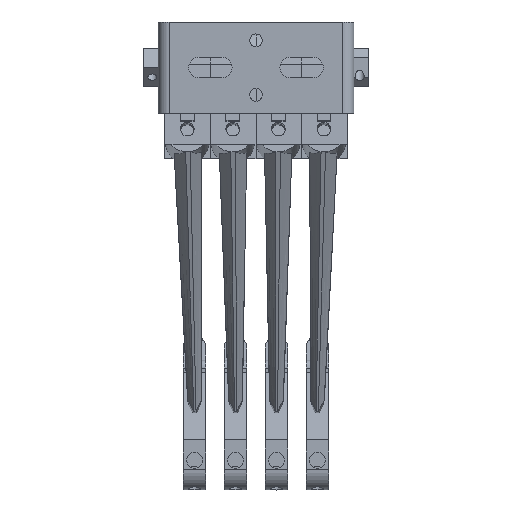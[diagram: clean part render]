
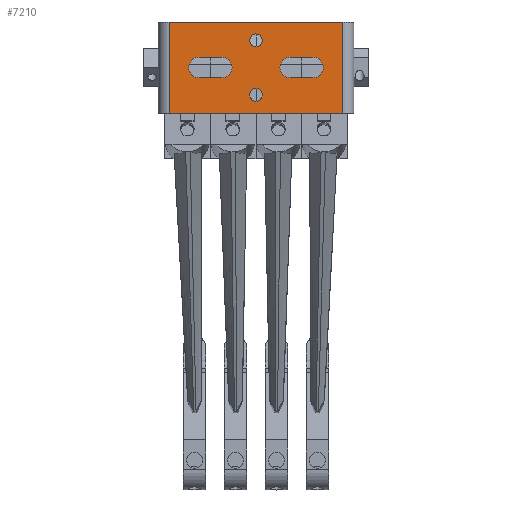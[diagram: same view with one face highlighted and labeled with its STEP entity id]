
A CAD part, front view. The second image highlights one B-rep face of the part: STEP entity #7210.
In plain terms, the highlighted planar face has unit normal (0, -1, 0).
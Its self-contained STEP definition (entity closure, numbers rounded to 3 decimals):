
#678 = FACE_BOUND ( 'NONE', #3669, .T. ) ;
#719 = FACE_BOUND ( 'NONE', #3660, .T. ) ;
#730 = FACE_BOUND ( 'NONE', #3900, .T. ) ;
#731 = FACE_OUTER_BOUND ( 'NONE', #3659, .T. ) ;
#733 = FACE_BOUND ( 'NONE', #3693, .T. ) ;
#2669 = DIRECTION ( 'NONE',  ( 0., -1., 0. ) ) ;
#2670 = PLANE ( 'NONE',  #9918 ) ;
#2672 = CARTESIAN_POINT ( 'NONE',  ( 0., -3., -40. ) ) ;
#2674 = DIRECTION ( 'NONE',  ( 0., 0., -1. ) ) ;
#2949 = CARTESIAN_POINT ( 'NONE',  ( 65., -3., -24.5 ) ) ;
#2968 = CARTESIAN_POINT ( 'NONE',  ( 40., -3., -10.75 ) ) ;
#2997 = CARTESIAN_POINT ( 'NONE',  ( 25., -3., -24.5 ) ) ;
#3009 = CARTESIAN_POINT ( 'NONE',  ( 25., -3., -15.5 ) ) ;
#3016 = CARTESIAN_POINT ( 'NONE',  ( 2., -3., -40. ) ) ;
#3035 = CARTESIAN_POINT ( 'NONE',  ( 65., -3., -15.5 ) ) ;
#3049 = CARTESIAN_POINT ( 'NONE',  ( 40., -3., -29.25 ) ) ;
#3051 = CARTESIAN_POINT ( 'NONE',  ( 15., -3., -15.5 ) ) ;
#3088 = CARTESIAN_POINT ( 'NONE',  ( 15., -3., -24.5 ) ) ;
#3089 = CARTESIAN_POINT ( 'NONE',  ( 40., -3., -34.75 ) ) ;
#3102 = CARTESIAN_POINT ( 'NONE',  ( 78., -3., -40. ) ) ;
#3122 = CARTESIAN_POINT ( 'NONE',  ( 55., -3., -24.5 ) ) ;
#3123 = CARTESIAN_POINT ( 'NONE',  ( 55., -3., -15.5 ) ) ;
#3127 = CARTESIAN_POINT ( 'NONE',  ( 78., -3., 0. ) ) ;
#3137 = CARTESIAN_POINT ( 'NONE',  ( 40., -3., -5.25 ) ) ;
#3240 = CARTESIAN_POINT ( 'NONE',  ( 2., -3., 0. ) ) ;
#3659 = EDGE_LOOP ( 'NONE', ( #10467, #10477, #10106, #10294 ) ) ;
#3660 = EDGE_LOOP ( 'NONE', ( #7482, #7469, #7477, #7476 ) ) ;
#3669 = EDGE_LOOP ( 'NONE', ( #7480, #7484 ) ) ;
#3693 = EDGE_LOOP ( 'NONE', ( #7479, #7470 ) ) ;
#3838 = CARTESIAN_POINT ( 'NONE',  ( 40., -3., -8. ) ) ;
#3839 = DIRECTION ( 'NONE',  ( 0., 1., 0. ) ) ;
#3855 = DIRECTION ( 'NONE',  ( 0., 0., -1. ) ) ;
#3900 = EDGE_LOOP ( 'NONE', ( #10278, #10145, #10166, #10159 ) ) ;
#4139 = DIRECTION ( 'NONE',  ( 1., 0., 0. ) ) ;
#4142 = DIRECTION ( 'NONE',  ( 0., 1., 0. ) ) ;
#4143 = DIRECTION ( 'NONE',  ( 0., 0., -1. ) ) ;
#4144 = CARTESIAN_POINT ( 'NONE',  ( 55., -3., -20. ) ) ;
#4181 = DIRECTION ( 'NONE',  ( 1., 0., 0. ) ) ;
#4182 = CARTESIAN_POINT ( 'NONE',  ( 0., -3., -40. ) ) ;
#4187 = CARTESIAN_POINT ( 'NONE',  ( 25., -3., -15.5 ) ) ;
#4765 = CARTESIAN_POINT ( 'NONE',  ( 55., -3., -15.5 ) ) ;
#4770 = DIRECTION ( 'NONE',  ( 1., 0., 0. ) ) ;
#4777 = CARTESIAN_POINT ( 'NONE',  ( 15., -3., -20. ) ) ;
#4778 = DIRECTION ( 'NONE',  ( 0., 1., 0. ) ) ;
#4779 = DIRECTION ( 'NONE',  ( 0., 0., -1. ) ) ;
#4782 = CARTESIAN_POINT ( 'NONE',  ( 40., -3., -32. ) ) ;
#4783 = DIRECTION ( 'NONE',  ( 0., 1., 0. ) ) ;
#4784 = DIRECTION ( 'NONE',  ( 0., 0., -1. ) ) ;
#4785 = CARTESIAN_POINT ( 'NONE',  ( 40., -3., -32. ) ) ;
#4786 = DIRECTION ( 'NONE',  ( 0., 1., 0. ) ) ;
#4787 = DIRECTION ( 'NONE',  ( 0., 0., -1. ) ) ;
#4812 = CARTESIAN_POINT ( 'NONE',  ( 40., -3., -8. ) ) ;
#4813 = DIRECTION ( 'NONE',  ( 0., 1., 0. ) ) ;
#4814 = DIRECTION ( 'NONE',  ( 0., 0., -1. ) ) ;
#4818 = CARTESIAN_POINT ( 'NONE',  ( 2., -3., -40. ) ) ;
#4826 = DIRECTION ( 'NONE',  ( 0., 0., 1. ) ) ;
#4832 = DIRECTION ( 'NONE',  ( -1., 0., 0. ) ) ;
#4833 = CARTESIAN_POINT ( 'NONE',  ( 65., -3., -24.5 ) ) ;
#4881 = CARTESIAN_POINT ( 'NONE',  ( 65., -3., -20. ) ) ;
#4882 = DIRECTION ( 'NONE',  ( 0., 1., 0. ) ) ;
#4883 = DIRECTION ( 'NONE',  ( 0., 0., -1. ) ) ;
#4931 = CARTESIAN_POINT ( 'NONE',  ( 78., -3., -40. ) ) ;
#4932 = CARTESIAN_POINT ( 'NONE',  ( 25., -3., -20. ) ) ;
#4933 = DIRECTION ( 'NONE',  ( 0., 1., 0. ) ) ;
#4934 = DIRECTION ( 'NONE',  ( 0., 0., -1. ) ) ;
#4936 = DIRECTION ( 'NONE',  ( 0., 0., 1. ) ) ;
#4948 = CARTESIAN_POINT ( 'NONE',  ( 15., -3., -24.5 ) ) ;
#4953 = CARTESIAN_POINT ( 'NONE',  ( 0., -3., 0. ) ) ;
#4954 = DIRECTION ( 'NONE',  ( 1., 0., 0. ) ) ;
#4958 = DIRECTION ( 'NONE',  ( -1., 0., 0. ) ) ;
#5254 = EDGE_CURVE ( 'NONE', #7950, #7862, #8632, .T. ) ;
#5258 = EDGE_CURVE ( 'NONE', #7915, #7878, #8640, .T. ) ;
#5259 = EDGE_CURVE ( 'NONE', #7876, #7916, #8642, .T. ) ;
#5261 = EDGE_CURVE ( 'NONE', #7916, #7876, #8646, .T. ) ;
#5271 = EDGE_CURVE ( 'NONE', #7795, #7964, #8661, .T. ) ;
#5278 = EDGE_CURVE ( 'NONE', #7843, #8071, #8672, .T. ) ;
#5281 = EDGE_CURVE ( 'NONE', #7776, #7949, #8679, .T. ) ;
#5287 = EDGE_CURVE ( 'NONE', #7862, #7776, #8680, .T. ) ;
#5308 = EDGE_CURVE ( 'NONE', #7836, #7824, #8718, .T. ) ;
#5310 = EDGE_CURVE ( 'NONE', #7929, #7954, #8716, .T. ) ;
#5319 = EDGE_CURVE ( 'NONE', #8071, #7954, #8738, .T. ) ;
#5321 = EDGE_CURVE ( 'NONE', #7824, #7915, #8736, .T. ) ;
#5340 = EDGE_CURVE ( 'NONE', #7949, #7950, #8777, .T. ) ;
#5345 = EDGE_CURVE ( 'NONE', #7878, #7836, #8785, .T. ) ;
#5360 = EDGE_CURVE ( 'NONE', #7843, #7929, #8812, .T. ) ;
#5472 = EDGE_CURVE ( 'NONE', #7964, #7795, #8963, .T. ) ;
#7210 = ADVANCED_FACE ( 'NONE', ( #678, #733, #719, #730, #731 ), #2670, .T. ) ;
#7469 = ORIENTED_EDGE ( 'NONE', *, *, #5340, .T. ) ;
#7470 = ORIENTED_EDGE ( 'NONE', *, *, #5261, .T. ) ;
#7476 = ORIENTED_EDGE ( 'NONE', *, *, #5287, .T. ) ;
#7477 = ORIENTED_EDGE ( 'NONE', *, *, #5254, .T. ) ;
#7479 = ORIENTED_EDGE ( 'NONE', *, *, #5259, .T. ) ;
#7480 = ORIENTED_EDGE ( 'NONE', *, *, #5472, .T. ) ;
#7482 = ORIENTED_EDGE ( 'NONE', *, *, #5281, .T. ) ;
#7484 = ORIENTED_EDGE ( 'NONE', *, *, #5271, .T. ) ;
#7776 = VERTEX_POINT ( 'NONE', #2949 ) ;
#7795 = VERTEX_POINT ( 'NONE', #2968 ) ;
#7824 = VERTEX_POINT ( 'NONE', #2997 ) ;
#7836 = VERTEX_POINT ( 'NONE', #3009 ) ;
#7843 = VERTEX_POINT ( 'NONE', #3016 ) ;
#7862 = VERTEX_POINT ( 'NONE', #3035 ) ;
#7876 = VERTEX_POINT ( 'NONE', #3049 ) ;
#7878 = VERTEX_POINT ( 'NONE', #3051 ) ;
#7915 = VERTEX_POINT ( 'NONE', #3088 ) ;
#7916 = VERTEX_POINT ( 'NONE', #3089 ) ;
#7929 = VERTEX_POINT ( 'NONE', #3102 ) ;
#7949 = VERTEX_POINT ( 'NONE', #3122 ) ;
#7950 = VERTEX_POINT ( 'NONE', #3123 ) ;
#7954 = VERTEX_POINT ( 'NONE', #3127 ) ;
#7964 = VERTEX_POINT ( 'NONE', #3137 ) ;
#8071 = VERTEX_POINT ( 'NONE', #3240 ) ;
#8632 = LINE ( 'NONE', #4765, #8637 ) ;
#8637 = VECTOR ( 'NONE', #4770, 1000. ) ;
#8640 = CIRCLE ( 'NONE', #9558, 4.5 ) ;
#8642 = CIRCLE ( 'NONE', #9560, 2.75 ) ;
#8646 = CIRCLE ( 'NONE', #9561, 2.75 ) ;
#8661 = CIRCLE ( 'NONE', #9566, 2.75 ) ;
#8672 = LINE ( 'NONE', #4818, #8677 ) ;
#8674 = VECTOR ( 'NONE', #4832, 1000. ) ;
#8677 = VECTOR ( 'NONE', #4826, 1000. ) ;
#8679 = LINE ( 'NONE', #4833, #8674 ) ;
#8680 = CIRCLE ( 'NONE', #9568, 4.5 ) ;
#8716 = LINE ( 'NONE', #4931, #8723 ) ;
#8718 = CIRCLE ( 'NONE', #9576, 4.5 ) ;
#8723 = VECTOR ( 'NONE', #4936, 1000. ) ;
#8736 = LINE ( 'NONE', #4948, #8745 ) ;
#8738 = LINE ( 'NONE', #4953, #8741 ) ;
#8741 = VECTOR ( 'NONE', #4954, 1000. ) ;
#8745 = VECTOR ( 'NONE', #4958, 1000. ) ;
#8777 = CIRCLE ( 'NONE', #9578, 4.5 ) ;
#8785 = LINE ( 'NONE', #4187, #8788 ) ;
#8788 = VECTOR ( 'NONE', #4139, 1000. ) ;
#8812 = LINE ( 'NONE', #4182, #8815 ) ;
#8815 = VECTOR ( 'NONE', #4181, 1000. ) ;
#8963 = CIRCLE ( 'NONE', #9607, 2.75 ) ;
#9558 = AXIS2_PLACEMENT_3D ( 'NONE', #4777, #4778, #4779 ) ;
#9560 = AXIS2_PLACEMENT_3D ( 'NONE', #4782, #4783, #4784 ) ;
#9561 = AXIS2_PLACEMENT_3D ( 'NONE', #4785, #4786, #4787 ) ;
#9566 = AXIS2_PLACEMENT_3D ( 'NONE', #4812, #4813, #4814 ) ;
#9568 = AXIS2_PLACEMENT_3D ( 'NONE', #4881, #4882, #4883 ) ;
#9576 = AXIS2_PLACEMENT_3D ( 'NONE', #4932, #4933, #4934 ) ;
#9578 = AXIS2_PLACEMENT_3D ( 'NONE', #4144, #4142, #4143 ) ;
#9607 = AXIS2_PLACEMENT_3D ( 'NONE', #3838, #3839, #3855 ) ;
#9918 = AXIS2_PLACEMENT_3D ( 'NONE', #2672, #2669, #2674 ) ;
#10106 = ORIENTED_EDGE ( 'NONE', *, *, #5360, .T. ) ;
#10145 = ORIENTED_EDGE ( 'NONE', *, *, #5308, .T. ) ;
#10159 = ORIENTED_EDGE ( 'NONE', *, *, #5258, .T. ) ;
#10166 = ORIENTED_EDGE ( 'NONE', *, *, #5321, .T. ) ;
#10278 = ORIENTED_EDGE ( 'NONE', *, *, #5345, .T. ) ;
#10294 = ORIENTED_EDGE ( 'NONE', *, *, #5310, .T. ) ;
#10467 = ORIENTED_EDGE ( 'NONE', *, *, #5319, .F. ) ;
#10477 = ORIENTED_EDGE ( 'NONE', *, *, #5278, .F. ) ;
